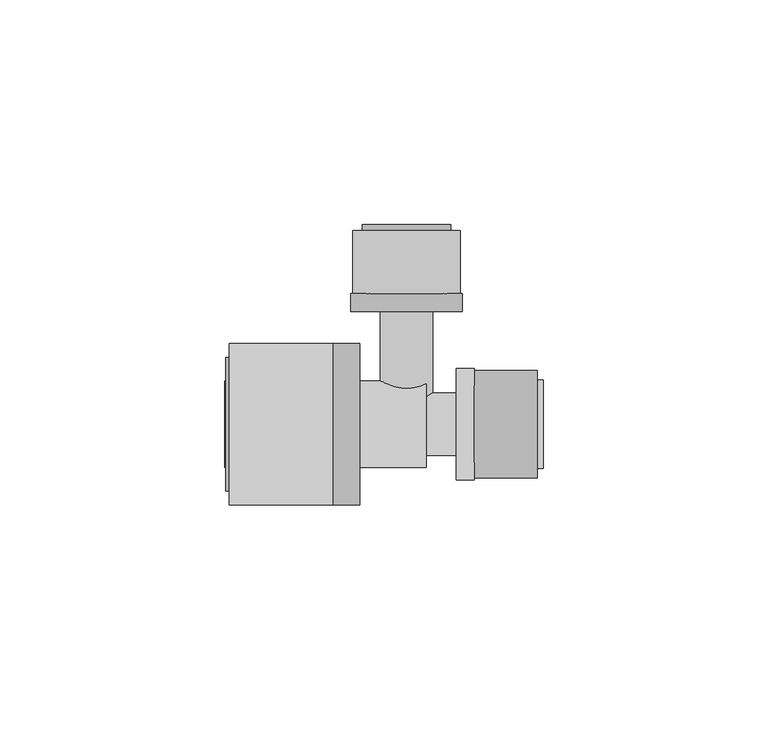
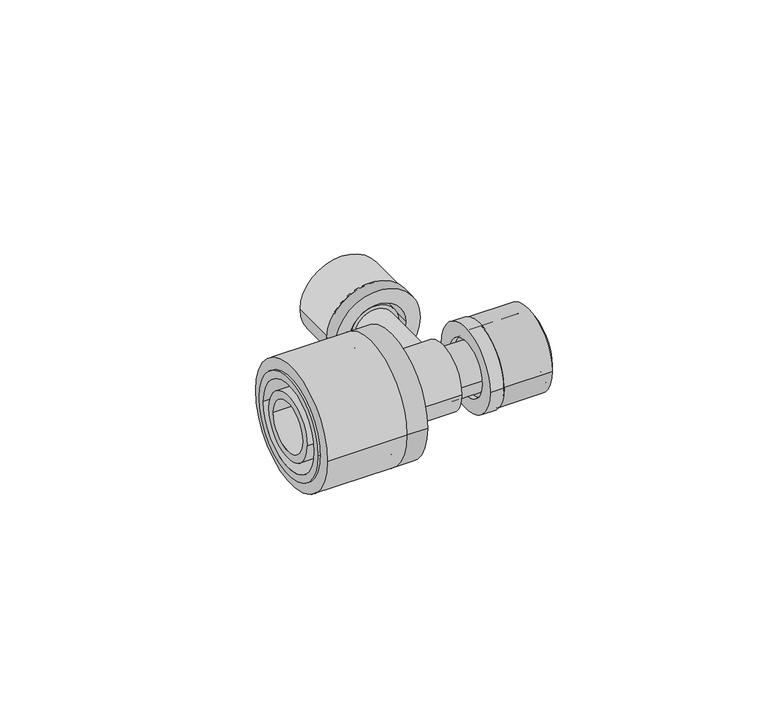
"""IFC4 building model written with IfcOpenShell, lengths in millimetres: pipe fitting geometry, FASTLOC_T-piece_LX : FSL T-Piece LX CZ."""

from ifc_helpers import new_model, si_unit, point, frame, origin, origin_2d, place, context, project, spatial, polyline, circle_curve, trimmed, segment, composite_curve, outline, extrude, source, transform, mapped, element, save
from ifc_brep_helpers import plane_surface, cylinder_surface, revolved_surface, advanced_brep


def pipe_fitting_db17a53a(model_context):
    return source(origin(), model_context, "Body", "SolidModel", [
        extrude(outline(composite_curve([segment(trimmed(circle_curve(origin_2d(), 12.0), [point((-12.0, 0.0))], [point((12.0, 0.0))], False, "CARTESIAN"), True, "CONTINUOUS"), segment(trimmed(circle_curve(origin_2d(), 12.0), [point((12.0, 0.0))], [point((-12.0, 0.0))], False, "CARTESIAN"), True, "CONTINUOUS")], self_intersect=False), holes=[composite_curve([segment(trimmed(circle_curve(origin_2d(), 8.85), [point((-8.85, 0.0))], [point((8.85, 0.0))], True, "CARTESIAN"), True, "CONTINUOUS"), segment(trimmed(circle_curve(origin_2d(), 8.85), [point((8.85, 0.0))], [point((-8.85, 0.0))], True, "CARTESIAN"), True, "CONTINUOUS")], self_intersect=False)]), frame((15.1, 0.0, 0.0), z_axis=(1.0, 0.0, 0.0), x_axis=(0.0, 1.0, 0.0)), (0.0, 0.0, 1.0), 14.0),
        advanced_brep(
        [(15.1, 12.35, 0.0), (15.1, -12.35, 0.0), (11.1, -12.35, 0.0), (11.1, 12.35, 0.0), (30.4, 9.85, 0.0), (30.4, -9.85, 0.0), (15.1, -9.85, 0.0), (15.1, 9.85, 0.0), (11.1, 8.15, 0.0), (11.1, -8.15, 0.0), (30.4, -8.15, 0.0), (30.4, 8.15, 0.0)],
        [
            (0, 1, circle_curve(frame((15.1, 0.0, 0.0), z_axis=(-1.0, 0.0, 0.0), x_axis=(0.0, -1.0, 0.0)), 12.35)),
            (1, 2),
            (2, 3, circle_curve(frame((11.1, 0.0, 0.0), z_axis=(1.0, 0.0, 0.0), x_axis=(0.0, -1.0, 0.0)), 12.35)),
            (3, 0),
            (4, 5, circle_curve(frame((30.4, 0.0, 0.0), z_axis=(-1.0, 0.0, 0.0), x_axis=(0.0, -1.0, 0.0)), 9.85)),
            (5, 6),
            (6, 7, circle_curve(frame((15.1, 0.0, 0.0), z_axis=(1.0, 0.0, 0.0), x_axis=(0.0, -1.0, 0.0)), 9.85)),
            (7, 4),
            (8, 9, circle_curve(frame((11.1, 0.0, 0.0), z_axis=(-1.0, 0.0, 0.0), x_axis=(0.0, -1.0, 0.0)), 8.15)),
            (9, 10),
            (10, 11, circle_curve(frame((30.4, 0.0, 0.0), z_axis=(1.0, 0.0, 0.0), x_axis=(0.0, -1.0, 0.0)), 8.15)),
            (11, 8),
            (1, 0, circle_curve(frame((15.1, 0.0, 0.0), z_axis=(-1.0, 0.0, 0.0), x_axis=(0.0, 1.0, 0.0)), 12.35)),
            (3, 2, circle_curve(frame((11.1, 0.0, 0.0), z_axis=(1.0, 0.0, 0.0), x_axis=(0.0, 1.0, 0.0)), 12.35)),
            (6, 7, circle_curve(frame((15.1, 0.0, 0.0), z_axis=(-1.0, 0.0, 0.0), x_axis=(0.0, 1.0, 0.0)), 9.85)),
            (5, 4, circle_curve(frame((30.4, 0.0, 0.0), z_axis=(-1.0, 0.0, 0.0), x_axis=(0.0, 1.0, 0.0)), 9.85)),
            (10, 11, circle_curve(frame((30.4, 0.0, 0.0), z_axis=(-1.0, 0.0, 0.0), x_axis=(0.0, 1.0, 0.0)), 8.15)),
            (9, 8, circle_curve(frame((11.1, 0.0, 0.0), z_axis=(-1.0, 0.0, 0.0), x_axis=(0.0, 1.0, 0.0)), 8.15)),
        ],
        [
            cylinder_surface(frame((11.1, 0.0, 0.0), z_axis=(1.0, 0.0, 0.0), x_axis=(0.0, -1.0, 0.0)), 12.35),
            cylinder_surface(frame((11.1, 0.0, 0.0), z_axis=(1.0, 0.0, 0.0), x_axis=(0.0, -1.0, 0.0)), 9.85),
            revolved_surface(polyline([(30.4, -8.15, 0.0), (11.1, -8.15, 0.0)]), (11.1, 0.0, 0.0), (1.0, 0.0, 0.0)),
            cylinder_surface(frame((11.1, 0.0, 0.0), z_axis=(1.0, 0.0, 0.0), x_axis=(0.0, 1.0, 0.0)), 12.35),
            plane_surface(frame((15.1, 0.0, 0.0), z_axis=(1.0, 0.0, 0.0), x_axis=(0.0, 1.0, 0.0))),
            cylinder_surface(frame((11.1, 0.0, 0.0), z_axis=(1.0, 0.0, 0.0), x_axis=(0.0, 1.0, 0.0)), 9.85),
            plane_surface(frame((30.4, 0.0, 0.0), z_axis=(1.0, 0.0, 0.0), x_axis=(0.0, 1.0, 0.0))),
            revolved_surface(polyline([(30.4, 8.15, 0.0), (11.1, 8.15, 0.0)]), (11.1, 0.0, 0.0), (1.0, 0.0, 0.0)),
            plane_surface(frame((11.1, 0.0, 0.0), z_axis=(-1.0, 0.0, 0.0), x_axis=(0.0, 1.0, 0.0))),
        ],
        [
            (0, [[1, 2, 3, 4]]),
            (1, [[5, 6, 7, 8]]),
            (2, [[9, 10, 11, 12]]),
            (3, [[13, -4, 14, -2]]),
            (4, [[-13, -1], [15, -7]]),
            (5, [[16, -8, -15, -6]]),
            (6, [[-16, -5], [17, -11]]),
            (7, [[18, -12, -17, -10]]),
            (8, [[-14, -3], [-18, -9]]),
        ],
    ),
        extrude(outline(composite_curve([segment(trimmed(circle_curve(origin_2d(), 18.0), [point((18.0, 0.0))], [point((-18.0, 0.0))], False, "CARTESIAN"), True, "CONTINUOUS"), segment(trimmed(circle_curve(origin_2d(), 18.0), [point((-18.0, 0.0))], [point((18.0, 0.0))], False, "CARTESIAN"), True, "CONTINUOUS")], self_intersect=False), holes=[composite_curve([segment(trimmed(circle_curve(origin_2d(), 13.5), [point((13.5, 0.0))], [point((-13.5, 0.0))], True, "CARTESIAN"), True, "CONTINUOUS"), segment(trimmed(circle_curve(origin_2d(), 13.5), [point((-13.5, 0.0))], [point((13.5, 0.0))], True, "CARTESIAN"), True, "CONTINUOUS")], self_intersect=False)]), frame((-39.4, 0.0, 0.0), z_axis=(1.0, 0.0, 0.0), x_axis=(0.0, 1.0, 0.0)), (0.0, 0.0, 1.0), 23.0),
        advanced_brep(
        [(-16.4, -18.0, 0.0), (-16.4, 18.0, 0.0), (-10.4, 18.0, 0.0), (-10.4, -18.0, 0.0), (-40.2, -14.85, 0.0), (-40.2, 14.85, 0.0), (-16.4, 14.85, 0.0), (-16.4, -14.85, 0.0), (-10.4, -12.65, 0.0), (-10.4, 12.65, 0.0), (-40.2, 12.65, 0.0), (-40.2, -12.65, 0.0)],
        [
            (0, 1, circle_curve(frame((-16.4, 0.0, 0.0), z_axis=(1.0, 0.0, 0.0), x_axis=(0.0, 1.0, 0.0)), 18.0)),
            (1, 2),
            (2, 3, circle_curve(frame((-10.4, 0.0, 0.0), z_axis=(-1.0, 0.0, 0.0), x_axis=(0.0, 1.0, 0.0)), 18.0)),
            (3, 0),
            (4, 5, circle_curve(frame((-40.2, 0.0, 0.0), z_axis=(1.0, 0.0, 0.0), x_axis=(0.0, 1.0, 0.0)), 14.85)),
            (5, 6),
            (6, 7, circle_curve(frame((-16.4, 0.0, 0.0), z_axis=(-1.0, 0.0, 0.0), x_axis=(0.0, 1.0, 0.0)), 14.85)),
            (7, 4),
            (8, 9, circle_curve(frame((-10.4, 0.0, 0.0), z_axis=(1.0, 0.0, 0.0), x_axis=(0.0, 1.0, 0.0)), 12.65)),
            (9, 10),
            (10, 11, circle_curve(frame((-40.2, 0.0, 0.0), z_axis=(-1.0, 0.0, 0.0), x_axis=(0.0, 1.0, 0.0)), 12.65)),
            (11, 8),
            (1, 0, circle_curve(frame((-16.4, 0.0, 0.0), z_axis=(1.0, 0.0, 0.0), x_axis=(0.0, -1.0, 0.0)), 18.0)),
            (3, 2, circle_curve(frame((-10.4, 0.0, 0.0), z_axis=(-1.0, 0.0, 0.0), x_axis=(0.0, -1.0, 0.0)), 18.0)),
            (6, 7, circle_curve(frame((-16.4, 0.0, 0.0), z_axis=(1.0, 0.0, 0.0), x_axis=(0.0, -1.0, 0.0)), 14.85)),
            (5, 4, circle_curve(frame((-40.2, 0.0, 0.0), z_axis=(1.0, 0.0, 0.0), x_axis=(0.0, -1.0, 0.0)), 14.85)),
            (10, 11, circle_curve(frame((-40.2, 0.0, 0.0), z_axis=(1.0, 0.0, 0.0), x_axis=(0.0, -1.0, 0.0)), 12.65)),
            (9, 8, circle_curve(frame((-10.4, 0.0, 0.0), z_axis=(1.0, 0.0, 0.0), x_axis=(0.0, -1.0, 0.0)), 12.65)),
        ],
        [
            cylinder_surface(frame((-10.4, 0.0, 0.0), z_axis=(-1.0, 0.0, 0.0), x_axis=(0.0, 1.0, 0.0)), 18.0),
            cylinder_surface(frame((-10.4, 0.0, 0.0), z_axis=(-1.0, 0.0, 0.0), x_axis=(0.0, 1.0, 0.0)), 14.85),
            revolved_surface(polyline([(-40.2, 12.65, 0.0), (-10.4, 12.65, 0.0)]), (-10.4, 0.0, 0.0), (-1.0, 0.0, 0.0)),
            cylinder_surface(frame((-10.4, 0.0, 0.0), z_axis=(-1.0, 0.0, 0.0), x_axis=(0.0, -1.0, 0.0)), 18.0),
            plane_surface(frame((-16.4, 0.0, 0.0), z_axis=(-1.0, 0.0, 0.0), x_axis=(0.0, -1.0, 0.0))),
            cylinder_surface(frame((-10.4, 0.0, 0.0), z_axis=(-1.0, 0.0, 0.0), x_axis=(0.0, -1.0, 0.0)), 14.85),
            plane_surface(frame((-40.2, 0.0, 0.0), z_axis=(-1.0, 0.0, 0.0), x_axis=(0.0, -1.0, 0.0))),
            revolved_surface(polyline([(-40.2, -12.65, 0.0), (-10.4, -12.65, 0.0)]), (-10.4, 0.0, 0.0), (-1.0, 0.0, 0.0)),
            plane_surface(frame((-10.4, 0.0, 0.0), z_axis=(1.0, 0.0, 0.0), x_axis=(0.0, -1.0, 0.0))),
        ],
        [
            (0, [[1, 2, 3, 4]]),
            (1, [[5, 6, 7, 8]]),
            (2, [[9, 10, 11, 12]]),
            (3, [[13, -4, 14, -2]]),
            (4, [[-13, -1], [15, -7]]),
            (5, [[16, -8, -15, -6]]),
            (6, [[-16, -5], [17, -11]]),
            (7, [[18, -12, -17, -10]]),
            (8, [[-14, -3], [-18, -9]]),
        ],
    ),
        extrude(outline(composite_curve([segment(trimmed(circle_curve(origin_2d(), 12.0), [point((0.0, 12.0))], [point((0.0, -12.0))], False, "CARTESIAN"), True, "CONTINUOUS"), segment(trimmed(circle_curve(origin_2d(), 12.0), [point((0.0, -12.0))], [point((0.0, 12.0))], False, "CARTESIAN"), True, "CONTINUOUS")], self_intersect=False), holes=[composite_curve([segment(trimmed(circle_curve(origin_2d(), 8.85), [point((0.0, 8.85))], [point((0.0, -8.85))], True, "CARTESIAN"), True, "CONTINUOUS"), segment(trimmed(circle_curve(origin_2d(), 8.85), [point((0.0, -8.85))], [point((0.0, 8.85))], True, "CARTESIAN"), True, "CONTINUOUS")], self_intersect=False)]), frame((0.0, 29.1, 0.0), z_axis=(0.0, 1.0, 0.0), x_axis=(0.0, 0.0, 1.0)), (0.0, 0.0, 1.0), 14.0),
        advanced_brep(
        [(-12.35, 29.1, 0.0), (12.35, 29.1, 0.0), (12.35, 25.1, 0.0), (-12.35, 25.1, 0.0), (-9.85, 44.4, 0.0), (9.85, 44.4, 0.0), (9.85, 29.1, 0.0), (-9.85, 29.1, 0.0), (-8.15, 25.1, 0.0), (8.15, 25.1, 0.0), (8.15, 44.4, 0.0), (-8.15, 44.4, 0.0)],
        [
            (0, 1, circle_curve(frame((0.0, 29.1, 0.0), z_axis=(0.0, -1.0, 0.0), x_axis=(1.0, 0.0, 0.0)), 12.35)),
            (1, 2),
            (2, 3, circle_curve(frame((0.0, 25.1, 0.0), z_axis=(0.0, 1.0, 0.0), x_axis=(1.0, 0.0, 0.0)), 12.35)),
            (3, 0),
            (4, 5, circle_curve(frame((0.0, 44.4, 0.0), z_axis=(0.0, -1.0, 0.0), x_axis=(1.0, 0.0, 0.0)), 9.85)),
            (5, 6),
            (6, 7, circle_curve(frame((0.0, 29.1, 0.0), z_axis=(0.0, 1.0, 0.0), x_axis=(1.0, 0.0, 0.0)), 9.85)),
            (7, 4),
            (8, 9, circle_curve(frame((0.0, 25.1, 0.0), z_axis=(0.0, -1.0, 0.0), x_axis=(1.0, 0.0, 0.0)), 8.15)),
            (9, 10),
            (10, 11, circle_curve(frame((0.0, 44.4, 0.0), z_axis=(0.0, 1.0, 0.0), x_axis=(1.0, 0.0, 0.0)), 8.15)),
            (11, 8),
            (1, 0, circle_curve(frame((0.0, 29.1, 0.0), z_axis=(0.0, -1.0, 0.0), x_axis=(-1.0, 0.0, 0.0)), 12.35)),
            (3, 2, circle_curve(frame((0.0, 25.1, 0.0), z_axis=(0.0, 1.0, 0.0), x_axis=(-1.0, 0.0, 0.0)), 12.35)),
            (6, 7, circle_curve(frame((0.0, 29.1, 0.0), z_axis=(0.0, -1.0, 0.0), x_axis=(-1.0, 0.0, 0.0)), 9.85)),
            (5, 4, circle_curve(frame((0.0, 44.4, 0.0), z_axis=(0.0, -1.0, 0.0), x_axis=(-1.0, 0.0, 0.0)), 9.85)),
            (10, 11, circle_curve(frame((0.0, 44.4, 0.0), z_axis=(0.0, -1.0, 0.0), x_axis=(-1.0, 0.0, 0.0)), 8.15)),
            (9, 8, circle_curve(frame((0.0, 25.1, 0.0), z_axis=(0.0, -1.0, 0.0), x_axis=(-1.0, 0.0, 0.0)), 8.15)),
        ],
        [
            cylinder_surface(frame((0.0, 25.1, 0.0), z_axis=(0.0, 1.0, 0.0), x_axis=(1.0, 0.0, 0.0)), 12.35),
            cylinder_surface(frame((0.0, 25.1, 0.0), z_axis=(0.0, 1.0, 0.0), x_axis=(1.0, 0.0, 0.0)), 9.85),
            revolved_surface(polyline([(8.15, 44.4, 0.0), (8.15, 25.1, 0.0)]), (0.0, 25.1, 0.0), (0.0, 1.0, 0.0)),
            cylinder_surface(frame((0.0, 25.1, 0.0), z_axis=(0.0, 1.0, 0.0), x_axis=(-1.0, 0.0, 0.0)), 12.35),
            plane_surface(frame((0.0, 29.1, 0.0), z_axis=(0.0, 1.0, 0.0), x_axis=(-1.0, 0.0, 0.0))),
            cylinder_surface(frame((0.0, 25.1, 0.0), z_axis=(0.0, 1.0, 0.0), x_axis=(-1.0, 0.0, 0.0)), 9.85),
            plane_surface(frame((0.0, 44.4, 0.0), z_axis=(0.0, 1.0, 0.0), x_axis=(-1.0, 0.0, 0.0))),
            revolved_surface(polyline([(-8.15, 44.4, 0.0), (-8.15, 25.1, 0.0)]), (0.0, 25.1, 0.0), (0.0, 1.0, 0.0)),
            plane_surface(frame((0.0, 25.1, 0.0), z_axis=(0.0, -1.0, 0.0), x_axis=(-1.0, 0.0, 0.0))),
        ],
        [
            (0, [[1, 2, 3, 4]]),
            (1, [[5, 6, 7, 8]]),
            (2, [[9, 10, 11, 12]]),
            (3, [[13, -4, 14, -2]]),
            (4, [[-13, -1], [15, -7]]),
            (5, [[16, -8, -15, -6]]),
            (6, [[-16, -5], [17, -11]]),
            (7, [[18, -12, -17, -10]]),
            (8, [[-14, -3], [-18, -9]]),
        ],
    ),
        advanced_brep(
        [(12.39, 6.95, 0.0), (12.39, -6.95, 0.0), (4.35, -6.95, 0.0), (4.35, 6.95, 0.0), (15.1, 8.05, 0.0), (15.1, -8.05, 0.0), (12.39, -8.05, 0.0), (12.39, 8.05, 0.0), (30.1, 6.95, 0.0), (30.1, -6.95, 0.0), (15.1, -6.95, 0.0), (15.1, 6.95, 0.0), (2.5, 5.1, 0.0), (2.5, -5.1, 0.0), (30.1, -5.1, 0.0), (30.1, 5.1, 0.0), (-40.4, 7.35, 0.0), (-40.4, -7.35, 0.0), (2.5, -7.35, 0.0), (2.5, 7.35, 0.0), (-16.4, 9.6, 0.0), (-16.4, -9.6, 0.0), (-40.4, -9.6, 0.0), (-40.4, 9.6, 0.0), (-13.6, 11.1, 0.0), (-13.6, -11.1, 0.0), (-16.4, -11.1, 0.0), (-16.4, 11.1, 0.0), (4.35, 9.6, 0.0), (4.35, -9.6, 0.0), (-13.6, -9.6, 0.0), (-13.6, 9.6, 0.0)],
        [
            (0, 1, circle_curve(frame((12.39, 0.0, 0.0), z_axis=(-1.0, 0.0, 0.0), x_axis=(0.0, -1.0, 0.0)), 6.95)),
            (1, 2),
            (2, 3, circle_curve(frame((4.35, 0.0, 0.0), z_axis=(1.0, 0.0, 0.0), x_axis=(0.0, -1.0, 0.0)), 6.95)),
            (3, 0),
            (4, 5, circle_curve(frame((15.1, 0.0, 0.0), z_axis=(-1.0, 0.0, 0.0), x_axis=(0.0, -1.0, 0.0)), 8.05)),
            (5, 6),
            (6, 7, circle_curve(frame((12.39, 0.0, 0.0), z_axis=(1.0, 0.0, 0.0), x_axis=(0.0, -1.0, 0.0)), 8.05)),
            (7, 4),
            (8, 9, circle_curve(frame((30.1, 0.0, 0.0), z_axis=(-1.0, 0.0, 0.0), x_axis=(0.0, -1.0, 0.0)), 6.95)),
            (9, 10),
            (10, 11, circle_curve(frame((15.1, 0.0, 0.0), z_axis=(1.0, 0.0, 0.0), x_axis=(0.0, -1.0, 0.0)), 6.95)),
            (11, 8),
            (12, 13, circle_curve(frame((2.5, 0.0, 0.0), z_axis=(-1.0, 0.0, 0.0), x_axis=(0.0, -1.0, 0.0)), 5.1)),
            (13, 14),
            (14, 15, circle_curve(frame((30.1, 0.0, 0.0), z_axis=(1.0, 0.0, 0.0), x_axis=(0.0, -1.0, 0.0)), 5.1)),
            (15, 12),
            (16, 17, circle_curve(frame((-40.4, 0.0, 0.0), z_axis=(-1.0, 0.0, 0.0), x_axis=(0.0, -1.0, 0.0)), 7.35)),
            (17, 18),
            (18, 19, circle_curve(frame((2.5, 0.0, 0.0), z_axis=(1.0, 0.0, 0.0), x_axis=(0.0, -1.0, 0.0)), 7.35)),
            (19, 16),
            (20, 21, circle_curve(frame((-16.4, 0.0, 0.0), z_axis=(-1.0, 0.0, 0.0), x_axis=(0.0, -1.0, 0.0)), 9.6)),
            (21, 22),
            (22, 23, circle_curve(frame((-40.4, 0.0, 0.0), z_axis=(1.0, 0.0, 0.0), x_axis=(0.0, -1.0, 0.0)), 9.6)),
            (23, 20),
            (24, 25, circle_curve(frame((-13.6, 0.0, 0.0), z_axis=(-1.0, 0.0, 0.0), x_axis=(0.0, -1.0, 0.0)), 11.1)),
            (25, 26),
            (26, 27, circle_curve(frame((-16.4, 0.0, 0.0), z_axis=(1.0, 0.0, 0.0), x_axis=(0.0, -1.0, 0.0)), 11.1)),
            (27, 24),
            (28, 29, circle_curve(frame((4.35, 0.0, 0.0), z_axis=(-1.0, 0.0, 0.0), x_axis=(0.0, -1.0, 0.0)), 9.6)),
            (29, 30),
            (30, 31, circle_curve(frame((-13.6, 0.0, 0.0), z_axis=(1.0, 0.0, 0.0), x_axis=(0.0, -1.0, 0.0)), 9.6)),
            (31, 28),
            (28, 29, circle_curve(frame((4.35, 0.0, 0.0), z_axis=(1.0, 0.0, 0.0), x_axis=(0.0, 1.0, 0.0)), 9.6)),
            (2, 3, circle_curve(frame((4.35, 0.0, 0.0), z_axis=(-1.0, 0.0, 0.0), x_axis=(0.0, 1.0, 0.0)), 6.95)),
            (1, 0, circle_curve(frame((12.39, 0.0, 0.0), z_axis=(-1.0, 0.0, 0.0), x_axis=(0.0, 1.0, 0.0)), 6.95)),
            (6, 7, circle_curve(frame((12.39, 0.0, 0.0), z_axis=(-1.0, 0.0, 0.0), x_axis=(0.0, 1.0, 0.0)), 8.05)),
            (5, 4, circle_curve(frame((15.1, 0.0, 0.0), z_axis=(-1.0, 0.0, 0.0), x_axis=(0.0, 1.0, 0.0)), 8.05)),
            (10, 11, circle_curve(frame((15.1, 0.0, 0.0), z_axis=(-1.0, 0.0, 0.0), x_axis=(0.0, 1.0, 0.0)), 6.95)),
            (9, 8, circle_curve(frame((30.1, 0.0, 0.0), z_axis=(-1.0, 0.0, 0.0), x_axis=(0.0, 1.0, 0.0)), 6.95)),
            (14, 15, circle_curve(frame((30.1, 0.0, 0.0), z_axis=(-1.0, 0.0, 0.0), x_axis=(0.0, 1.0, 0.0)), 5.1)),
            (13, 12, circle_curve(frame((2.5, 0.0, 0.0), z_axis=(-1.0, 0.0, 0.0), x_axis=(0.0, 1.0, 0.0)), 5.1)),
            (18, 19, circle_curve(frame((2.5, 0.0, 0.0), z_axis=(-1.0, 0.0, 0.0), x_axis=(0.0, 1.0, 0.0)), 7.35)),
            (17, 16, circle_curve(frame((-40.4, 0.0, 0.0), z_axis=(-1.0, 0.0, 0.0), x_axis=(0.0, 1.0, 0.0)), 7.35)),
            (22, 23, circle_curve(frame((-40.4, 0.0, 0.0), z_axis=(-1.0, 0.0, 0.0), x_axis=(0.0, 1.0, 0.0)), 9.6)),
            (21, 20, circle_curve(frame((-16.4, 0.0, 0.0), z_axis=(-1.0, 0.0, 0.0), x_axis=(0.0, 1.0, 0.0)), 9.6)),
            (26, 27, circle_curve(frame((-16.4, 0.0, 0.0), z_axis=(-1.0, 0.0, 0.0), x_axis=(0.0, 1.0, 0.0)), 11.1)),
            (25, 24, circle_curve(frame((-13.6, 0.0, 0.0), z_axis=(-1.0, 0.0, 0.0), x_axis=(0.0, 1.0, 0.0)), 11.1)),
            (30, 31, circle_curve(frame((-13.6, 0.0, 0.0), z_axis=(-1.0, 0.0, 0.0), x_axis=(0.0, 1.0, 0.0)), 9.6)),
        ],
        [
            cylinder_surface(frame((0.0, 0.0, 0.0), z_axis=(1.0, 0.0, 0.0), x_axis=(0.0, -1.0, 0.0)), 6.95),
            cylinder_surface(frame((0.0, 0.0, 0.0), z_axis=(1.0, 0.0, 0.0), x_axis=(0.0, -1.0, 0.0)), 8.05),
            revolved_surface(polyline([(30.1, -5.1, 0.0), (2.5, -5.1, 0.0)]), (0.0, 0.0, 0.0), (1.0, 0.0, 0.0)),
            revolved_surface(polyline([(2.5, -7.35, 0.0), (-40.4, -7.35, 0.0)]), (0.0, 0.0, 0.0), (1.0, 0.0, 0.0)),
            cylinder_surface(frame((0.0, 0.0, 0.0), z_axis=(1.0, 0.0, 0.0), x_axis=(0.0, -1.0, 0.0)), 9.6),
            cylinder_surface(frame((0.0, 0.0, 0.0), z_axis=(1.0, 0.0, 0.0), x_axis=(0.0, -1.0, 0.0)), 11.1),
            plane_surface(frame((4.35, 0.0, 0.0), z_axis=(1.0, 0.0, 0.0), x_axis=(0.0, 1.0, 0.0))),
            cylinder_surface(frame((0.0, 0.0, 0.0), z_axis=(1.0, 0.0, 0.0), x_axis=(0.0, 1.0, 0.0)), 6.95),
            plane_surface(frame((12.39, 0.0, 0.0), z_axis=(-1.0, 0.0, 0.0), x_axis=(0.0, 1.0, 0.0))),
            cylinder_surface(frame((0.0, 0.0, 0.0), z_axis=(1.0, 0.0, 0.0), x_axis=(0.0, 1.0, 0.0)), 8.05),
            plane_surface(frame((15.1, 0.0, 0.0), z_axis=(1.0, 0.0, 0.0), x_axis=(0.0, 1.0, 0.0))),
            plane_surface(frame((30.1, 0.0, 0.0), z_axis=(1.0, 0.0, 0.0), x_axis=(0.0, 1.0, 0.0))),
            revolved_surface(polyline([(30.1, 5.1, 0.0), (2.5, 5.1, 0.0)]), (0.0, 0.0, 0.0), (1.0, 0.0, 0.0)),
            plane_surface(frame((2.5, 0.0, 0.0), z_axis=(-1.0, 0.0, 0.0), x_axis=(0.0, 1.0, 0.0))),
            revolved_surface(polyline([(2.5, 7.35, 0.0), (-40.4, 7.35, 0.0)]), (0.0, 0.0, 0.0), (1.0, 0.0, 0.0)),
            plane_surface(frame((-40.4, 0.0, 0.0), z_axis=(-1.0, 0.0, 0.0), x_axis=(0.0, 1.0, 0.0))),
            cylinder_surface(frame((0.0, 0.0, 0.0), z_axis=(1.0, 0.0, 0.0), x_axis=(0.0, 1.0, 0.0)), 9.6),
            plane_surface(frame((-16.4, 0.0, 0.0), z_axis=(-1.0, 0.0, 0.0), x_axis=(0.0, 1.0, 0.0))),
            cylinder_surface(frame((0.0, 0.0, 0.0), z_axis=(1.0, 0.0, 0.0), x_axis=(0.0, 1.0, 0.0)), 11.1),
            plane_surface(frame((-13.6, 0.0, 0.0), z_axis=(1.0, 0.0, 0.0), x_axis=(0.0, 1.0, 0.0))),
        ],
        [
            (0, [[1, 2, 3, 4]]),
            (1, [[5, 6, 7, 8]]),
            (0, [[9, 10, 11, 12]]),
            (2, [[13, 14, 15, 16]]),
            (3, [[17, 18, 19, 20]]),
            (4, [[21, 22, 23, 24]]),
            (5, [[25, 26, 27, 28]]),
            (4, [[29, 30, 31, 32]]),
            (6, [[33, -29], [34, -3]]),
            (7, [[35, -4, -34, -2]]),
            (8, [[36, -7], [-35, -1]]),
            (9, [[37, -8, -36, -6]]),
            (10, [[-37, -5], [38, -11]]),
            (7, [[39, -12, -38, -10]]),
            (11, [[-39, -9], [40, -15]]),
            (12, [[41, -16, -40, -14]]),
            (13, [[42, -19], [-41, -13]]),
            (14, [[43, -20, -42, -18]]),
            (15, [[44, -23], [-43, -17]]),
            (16, [[45, -24, -44, -22]]),
            (17, [[46, -27], [-45, -21]]),
            (18, [[47, -28, -46, -26]]),
            (19, [[-47, -25], [48, -31]]),
            (16, [[-33, -32, -48, -30]]),
        ],
    ),
        advanced_brep(
        [(3.95, 44.1, 0.0), (-3.95, 44.1, 0.0), (-3.95, 0.0, 0.0), (3.95, 0.0, 0.0), (5.8, 0.0, 0.0), (-5.8, 0.0, 0.0), (-5.8, 26.39, 0.0), (5.8, 26.39, 0.0), (6.9, 26.39, 0.0), (-6.9, 26.39, 0.0), (-6.9, 29.1, 0.0), (6.9, 29.1, 0.0), (5.8, 29.1, 0.0), (-5.8, 29.1, 0.0), (-5.8, 44.1, 0.0), (5.8, 44.1, 0.0)],
        [
            (0, 1, circle_curve(frame((0.0, 44.1, 0.0), z_axis=(0.0, 1.0, 0.0), x_axis=(-1.0, 0.0, 0.0)), 3.95)),
            (1, 2),
            (2, 3, circle_curve(frame((0.0, 0.0, 0.0), z_axis=(0.0, -1.0, 0.0), x_axis=(-1.0, 0.0, 0.0)), 3.95)),
            (3, 0),
            (4, 5, circle_curve(frame((0.0, 0.0, 0.0), z_axis=(0.0, 1.0, 0.0), x_axis=(-1.0, 0.0, 0.0)), 5.8)),
            (5, 6),
            (6, 7, circle_curve(frame((0.0, 26.39, 0.0), z_axis=(0.0, -1.0, 0.0), x_axis=(-1.0, 0.0, 0.0)), 5.8)),
            (7, 4),
            (8, 9, circle_curve(frame((0.0, 26.39, 0.0), z_axis=(0.0, 1.0, 0.0), x_axis=(-1.0, 0.0, 0.0)), 6.9)),
            (9, 10),
            (10, 11, circle_curve(frame((0.0, 29.1, 0.0), z_axis=(0.0, -1.0, 0.0), x_axis=(-1.0, 0.0, 0.0)), 6.9)),
            (11, 8),
            (12, 13, circle_curve(frame((0.0, 29.1, 0.0), z_axis=(0.0, 1.0, 0.0), x_axis=(-1.0, 0.0, 0.0)), 5.8)),
            (13, 14),
            (14, 15, circle_curve(frame((0.0, 44.1, 0.0), z_axis=(0.0, -1.0, 0.0), x_axis=(-1.0, 0.0, 0.0)), 5.8)),
            (15, 12),
            (1, 0, circle_curve(frame((0.0, 44.1, 0.0), z_axis=(0.0, 1.0, 0.0), x_axis=(1.0, 0.0, 0.0)), 3.95)),
            (3, 2, circle_curve(frame((0.0, 0.0, 0.0), z_axis=(0.0, -1.0, 0.0), x_axis=(1.0, 0.0, 0.0)), 3.95)),
            (4, 5, circle_curve(frame((0.0, 0.0, 0.0), z_axis=(0.0, -1.0, 0.0), x_axis=(1.0, 0.0, 0.0)), 5.8)),
            (7, 6, circle_curve(frame((0.0, 26.39, 0.0), z_axis=(0.0, -1.0, 0.0), x_axis=(1.0, 0.0, 0.0)), 5.8)),
            (8, 9, circle_curve(frame((0.0, 26.39, 0.0), z_axis=(0.0, -1.0, 0.0), x_axis=(1.0, 0.0, 0.0)), 6.9)),
            (11, 10, circle_curve(frame((0.0, 29.1, 0.0), z_axis=(0.0, -1.0, 0.0), x_axis=(1.0, 0.0, 0.0)), 6.9)),
            (12, 13, circle_curve(frame((0.0, 29.1, 0.0), z_axis=(0.0, -1.0, 0.0), x_axis=(1.0, 0.0, 0.0)), 5.8)),
            (15, 14, circle_curve(frame((0.0, 44.1, 0.0), z_axis=(0.0, -1.0, 0.0), x_axis=(1.0, 0.0, 0.0)), 5.8)),
        ],
        [
            revolved_surface(polyline([(-3.95, 0.0, 0.0), (-3.95, 44.1, 0.0)]), (0.0, 0.0, 0.0), (0.0, -1.0, 0.0)),
            cylinder_surface(frame((0.0, 0.0, 0.0), z_axis=(0.0, -1.0, 0.0), x_axis=(-1.0, 0.0, 0.0)), 5.8),
            cylinder_surface(frame((0.0, 0.0, 0.0), z_axis=(0.0, -1.0, 0.0), x_axis=(-1.0, 0.0, 0.0)), 6.9),
            revolved_surface(polyline([(3.95, 0.0, 0.0), (3.95, 44.1, 0.0)]), (0.0, 0.0, 0.0), (0.0, -1.0, 0.0)),
            plane_surface(frame((0.0, 0.0, 0.0), z_axis=(0.0, -1.0, 0.0), x_axis=(1.0, 0.0, 0.0))),
            cylinder_surface(frame((0.0, 0.0, 0.0), z_axis=(0.0, -1.0, 0.0), x_axis=(1.0, 0.0, 0.0)), 5.8),
            plane_surface(frame((0.0, 26.39, 0.0), z_axis=(0.0, -1.0, 0.0), x_axis=(1.0, 0.0, 0.0))),
            cylinder_surface(frame((0.0, 0.0, 0.0), z_axis=(0.0, -1.0, 0.0), x_axis=(1.0, 0.0, 0.0)), 6.9),
            plane_surface(frame((0.0, 29.1, 0.0), z_axis=(0.0, 1.0, 0.0), x_axis=(1.0, 0.0, 0.0))),
            plane_surface(frame((0.0, 44.1, 0.0), z_axis=(0.0, 1.0, 0.0), x_axis=(1.0, 0.0, 0.0))),
        ],
        [
            (0, [[1, 2, 3, 4]]),
            (1, [[5, 6, 7, 8]]),
            (2, [[9, 10, 11, 12]]),
            (1, [[13, 14, 15, 16]]),
            (3, [[17, -4, 18, -2]]),
            (4, [[19, -5], [-18, -3]]),
            (5, [[-19, -8, 20, -6]]),
            (6, [[21, -9], [-20, -7]]),
            (7, [[-21, -12, 22, -10]]),
            (8, [[-22, -11], [23, -13]]),
            (5, [[-23, -16, 24, -14]]),
            (9, [[-24, -15], [-17, -1]]),
        ],
    ),
    ])


if __name__ == "__main__":
    model = new_model("IFC4")
    model_context = context("Model", 3, world=origin())
    ifc_project = project(units=[si_unit("LENGTHUNIT", "METRE", prefix="MILLI")], contexts=[model_context])
    site = spatial("IfcSite", under=ifc_project)
    building = spatial("IfcBuilding", under=site)
    placement = place(None, origin())
    pipe_fitting_shape = pipe_fitting_db17a53a(model_context)
    element("IfcPipeFitting", 1, ObjectType="FASTLOC_T-piece_LX : FSL T-Piece LX CZ", at=placement, inside=building, context=model_context, shape_type="MappedRepresentation", body=[
        mapped(pipe_fitting_shape, transform((0.0, 0.0, 0.0), x_axis=(1.0, 0.0, 0.0), y_axis=(0.0, 1.0, 0.0), z_axis=(0.0, 0.0, 1.0))),
    ])
    save(model, "model.ifc")
